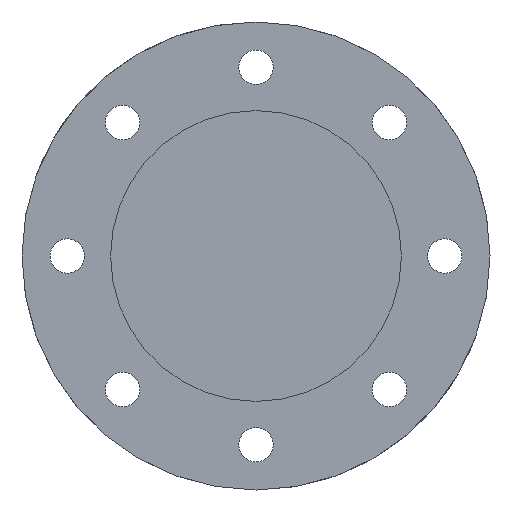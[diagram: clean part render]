
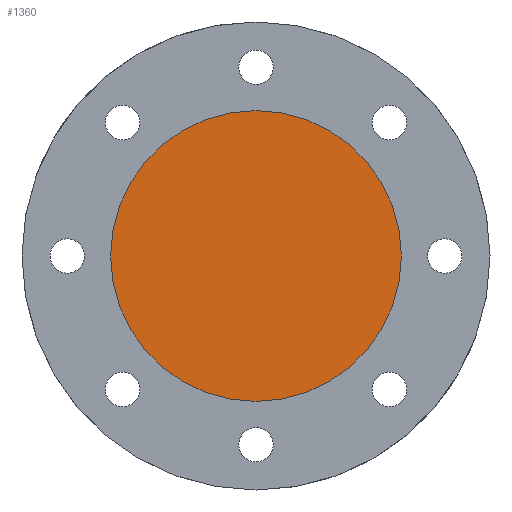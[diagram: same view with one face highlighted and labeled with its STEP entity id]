
A CAD part, front view. The second image highlights one B-rep face of the part: STEP entity #1360.
In plain terms, the highlighted planar face has unit normal (0, -1, 0).
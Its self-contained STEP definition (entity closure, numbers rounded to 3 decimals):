
#70 = PLANE ( 'NONE',  #272 ) ;
#164 = EDGE_CURVE ( 'NONE', #262, #990, #1210, .T. ) ;
#262 = VERTEX_POINT ( 'NONE', #961 ) ;
#272 = AXIS2_PLACEMENT_3D ( 'NONE', #1189, #906, #1054 ) ;
#289 = DIRECTION ( 'NONE',  ( 0., -1., 0. ) ) ;
#306 = CARTESIAN_POINT ( 'NONE',  ( 0., 4.9, 0. ) ) ;
#313 = FACE_OUTER_BOUND ( 'NONE', #1508, .T. ) ;
#519 = EDGE_CURVE ( 'NONE', #990, #262, #607, .T. ) ;
#557 = AXIS2_PLACEMENT_3D ( 'NONE', #689, #289, #944 ) ;
#563 = DIRECTION ( 'NONE',  ( 0., 0., 1. ) ) ;
#607 = CIRCLE ( 'NONE', #1507, 40.85 ) ;
#652 = ORIENTED_EDGE ( 'NONE', *, *, #519, .T. ) ;
#689 = CARTESIAN_POINT ( 'NONE',  ( 0., 4.9, 0. ) ) ;
#784 = DIRECTION ( 'NONE',  ( 0., -1., 0. ) ) ;
#906 = DIRECTION ( 'NONE',  ( 0., 1., 0. ) ) ;
#944 = DIRECTION ( 'NONE',  ( 0., 0., 1. ) ) ;
#961 = CARTESIAN_POINT ( 'NONE',  ( 0., 4.9, -40.85 ) ) ;
#990 = VERTEX_POINT ( 'NONE', #1388 ) ;
#1054 = DIRECTION ( 'NONE',  ( 0., 0., 1. ) ) ;
#1189 = CARTESIAN_POINT ( 'NONE',  ( 0., 4.9, 41.35 ) ) ;
#1210 = CIRCLE ( 'NONE', #557, 40.85 ) ;
#1327 = ORIENTED_EDGE ( 'NONE', *, *, #164, .T. ) ;
#1360 = ADVANCED_FACE ( 'NONE', ( #313 ), #70, .F. ) ;
#1388 = CARTESIAN_POINT ( 'NONE',  ( 0., 4.9, 40.85 ) ) ;
#1507 = AXIS2_PLACEMENT_3D ( 'NONE', #306, #784, #563 ) ;
#1508 = EDGE_LOOP ( 'NONE', ( #652, #1327 ) ) ;
